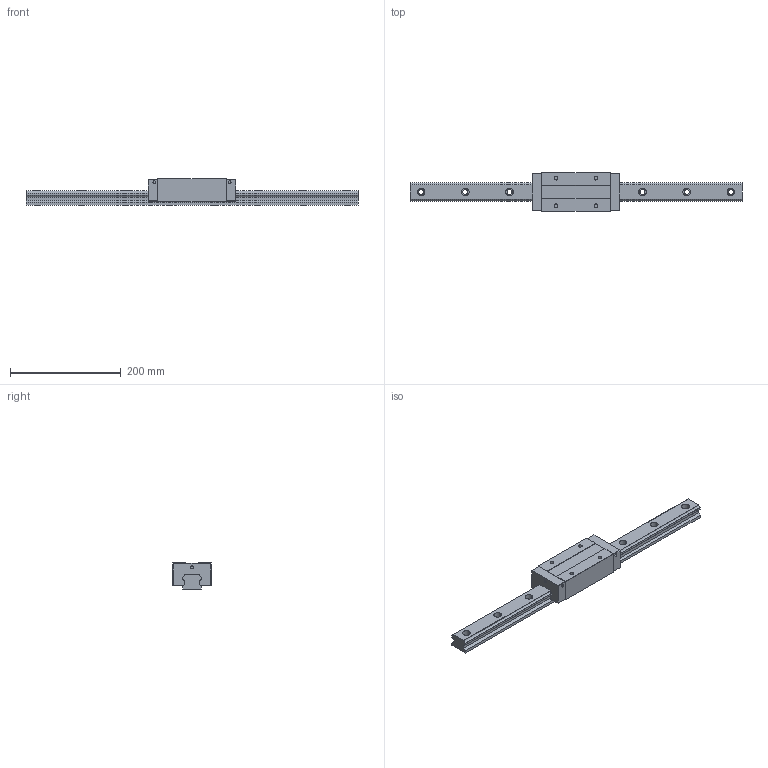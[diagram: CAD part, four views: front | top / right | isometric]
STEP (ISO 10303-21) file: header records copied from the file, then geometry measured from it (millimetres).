
FILE_DESCRIPTION (( 'STEP AP203' ), '1' );
FILE_NAME ('TRS35VE-SU.STEP', '2024-06-26T05:30:33', ( '' ), ( '' ), 'SwSTEP 2.0', 'SolidWorks 2022', '' );
FILE_SCHEMA (( 'CONFIG_CONTROL_DESIGN' ));
Length unit declared in the file: millimetre
Products named in the file (1): TRS35VE-SU
Bounding box: 600 x 70 x 48 mm (x, y, z)
Volume: 800067.9 mm3; surface area: 129704.8 mm2
Topology: 2 solids, 2 shells, 178 faces, 464 edges, 308 vertices
Faces by surface type: plane 90, cylinder 88
Entity records: 5619 total; most frequent: DIRECTION 998, CARTESIAN_POINT 951, ORIENTED_EDGE 928, EDGE_CURVE 464, AXIS2_PLACEMENT_3D 355, VERTEX_POINT 308, LINE 288, VECTOR 288
